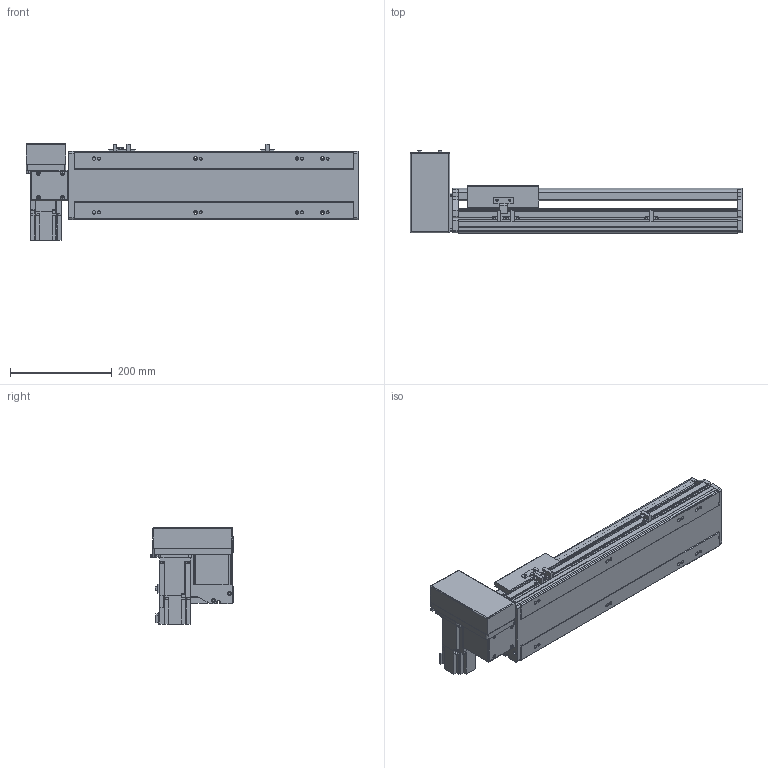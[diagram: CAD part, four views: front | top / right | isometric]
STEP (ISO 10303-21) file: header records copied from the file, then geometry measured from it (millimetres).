
FILE_DESCRIPTION(/* description */ ('STEP AP214'),/* implementation_level */ '2;1');
FILE_NAME(/* name */ 'PBS140S-P40-S300-RU-T40-C1-N(0)',/* time_stamp */ '2022-06-09T02:53:49+02:00',/* author */ ('License CC BY-ND 4.0'),/* organization */ ('CADENAS'),/* preprocessor_version */ 'ST-DEVELOPER v18.102',/* originating_system */ 'PARTsolutions',/* authorisation */ ' ');
FILE_SCHEMA (('AUTOMOTIVE_DESIGN {1 0 10303 214 3 1 1}'));
Length unit declared in the file: millimetre
Products named in the file (7): PBS140S-P40-S300-RU-T40-C1-N(0); PBS140S_sensor; PBS140S_plant; PBS140S_sliser; T40-p1; PBS140ST-RU_motors; PBS140S-S300()_body
Assembly tree (8 placements, depth 2):
  PBS140S-P40-S300-RU-T40-C1-N(0)
    PBS140S_sensor  x3
    PBS140S_plant
    PBS140S_sliser
    T40-p1
    PBS140ST-RU_motors
    PBS140S-S300()_body
Bounding box: 654 x 162.5 x 189.7 mm (x, y, z)
Volume: 3850336.8 mm3; surface area: 698104.8 mm2
Topology: 8 solids, 8 shells, 1035 faces, 2751 edges, 1801 vertices
Faces by surface type: plane 678, cylinder 313, cone 34, sphere 8, torus 2
Full cylindrical faces by diameter (mm): 3.242 x4, 4 x2, 4.134 x4, 4.4 x8, 4.5 x2, 4.8 x4, 4.917 x16, 5.5 x7, 6 x2, 7 x10, 7.5 x8, 8 x12, 8.5 x4, 10.5 x8, 14 x1, 30 x2, 50 x2
Entity records: 29664 total; most frequent: CARTESIAN_POINT 5368, DIRECTION 5068, ORIENTED_EDGE 4822, EDGE_CURVE 2411, AXIS2_PLACEMENT_3D 1739, VERTEX_POINT 1657, LINE 1590, VECTOR 1590
